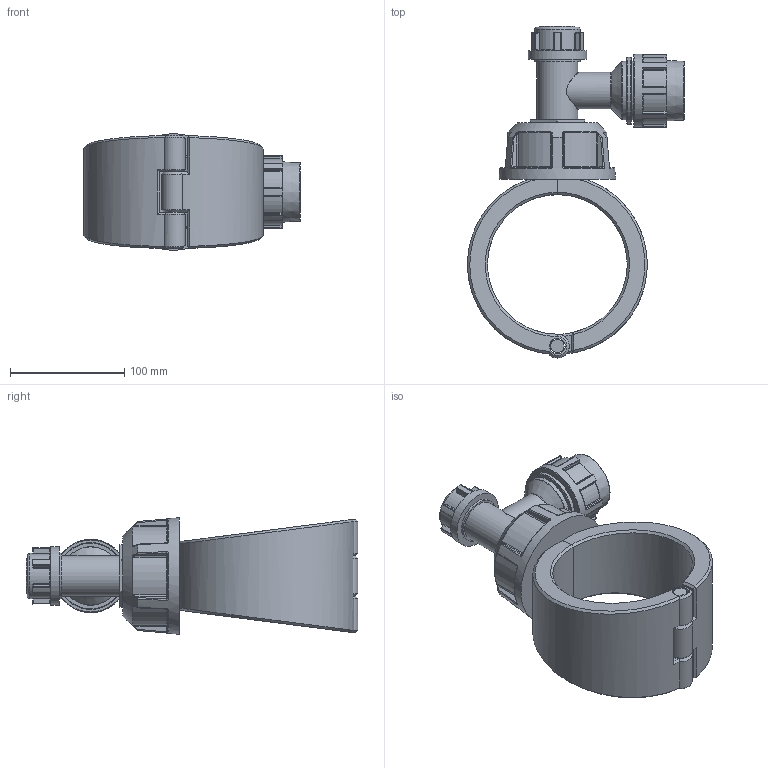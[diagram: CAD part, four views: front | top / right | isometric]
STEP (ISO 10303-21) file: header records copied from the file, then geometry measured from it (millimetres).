
FILE_DESCRIPTION(/* description */ ('Plassadle Tapper 122x32'),/* implementation_level */ '2;1');
FILE_NAME(/* name */ 'C:\Users\comp2\Dropbox\99-16-3568-Processing\Mechanical Fittings\16310\stp\163100125032_1631061250320A.stp',/* time_stamp */ '2022-02-03T11:58:09+00:00',/* author */ ('comp2'),/* organization */ (''),/* preprocessor_version */ 'ST-DEVELOPER v17.2',/* originating_system */ 'Autodesk Inventor 2019',/* authorisation */ '');
FILE_SCHEMA (('AUTOMOTIVE_DESIGN { 1 0 10303 214 3 1 1 }'));
Length unit declared in the file: millimetre
Products named in the file (1): 163100125032_1631061250320A
Bounding box: 189.44 x 290 x 102 mm (x, y, z)
Volume: 1169985.5 mm3; surface area: 158988.1 mm2
Topology: 4 solids, 4 shells, 519 faces, 1253 edges, 754 vertices
Faces by surface type: cylinder 184, plane 109, bspline 87, torus 83, sphere 40, cone 16
Full cylindrical faces by diameter (mm): 11.64 x1, 13.64 x3, 30.6 x1, 32 x2, 35.7 x1, 39.7 x2, 51 x1, 51.2 x2, 58.414 x1, 64 x1
Entity records: 18715 total; most frequent: CARTESIAN_POINT 6962, ORIENTED_EDGE 2508, DIRECTION 2426, EDGE_CURVE 1254, AXIS2_PLACEMENT_3D 1028, VERTEX_POINT 755, CIRCLE 563, EDGE_LOOP 537
